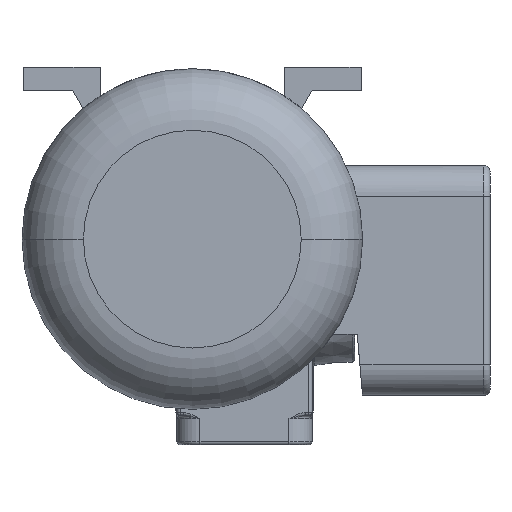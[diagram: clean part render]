
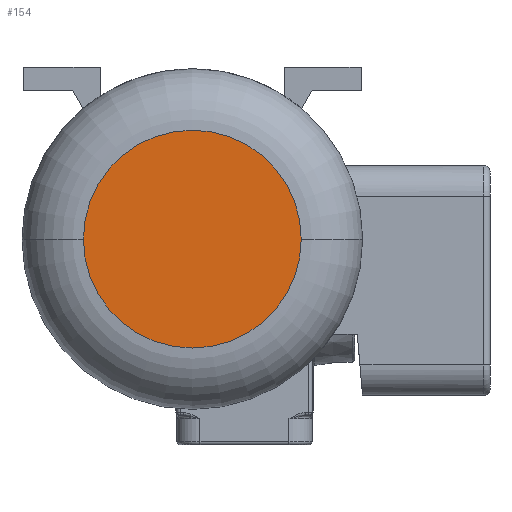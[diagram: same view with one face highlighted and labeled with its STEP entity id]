
A CAD part, left-side view. The second image highlights one B-rep face of the part: STEP entity #154.
In plain terms, the highlighted planar face has unit normal (-1, 0, 0).
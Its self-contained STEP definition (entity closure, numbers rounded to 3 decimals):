
#154 = ADVANCED_FACE ( 'NONE', ( #11403 ), #6577, .F. ) ;
#1228 = DIRECTION ( 'NONE',  ( 0., 0., -1. ) ) ;
#1391 = AXIS2_PLACEMENT_3D ( 'NONE', #3445, #8509, #1228 ) ;
#2450 = CIRCLE ( 'NONE', #9863, 35.5 ) ;
#2600 = CARTESIAN_POINT ( 'NONE',  ( 0., 0., 0. ) ) ;
#3445 = CARTESIAN_POINT ( 'NONE',  ( 0., 0., 0. ) ) ;
#3759 = CIRCLE ( 'NONE', #1391, 35.5 ) ;
#4293 = AXIS2_PLACEMENT_3D ( 'NONE', #2600, #15145, #5079 ) ;
#5079 = DIRECTION ( 'NONE',  ( 0., 0., -1. ) ) ;
#6577 = PLANE ( 'NONE',  #4293 ) ;
#6709 = VERTEX_POINT ( 'NONE', #7409 ) ;
#7409 = CARTESIAN_POINT ( 'NONE',  ( 0., 0., -35.5 ) ) ;
#7969 = ORIENTED_EDGE ( 'NONE', *, *, #12453, .T. ) ;
#7977 = CARTESIAN_POINT ( 'NONE',  ( 0., 0., 0. ) ) ;
#8509 = DIRECTION ( 'NONE',  ( -1., 0., 0. ) ) ;
#9863 = AXIS2_PLACEMENT_3D ( 'NONE', #7977, #10327, #14316 ) ;
#10039 = CARTESIAN_POINT ( 'NONE',  ( 0., 0., 35.5 ) ) ;
#10327 = DIRECTION ( 'NONE',  ( -1., 0., 0. ) ) ;
#11335 = EDGE_LOOP ( 'NONE', ( #7969, #15362 ) ) ;
#11403 = FACE_OUTER_BOUND ( 'NONE', #11335, .T. ) ;
#12453 = EDGE_CURVE ( 'NONE', #6709, #15680, #3759, .T. ) ;
#13008 = EDGE_CURVE ( 'NONE', #15680, #6709, #2450, .T. ) ;
#14316 = DIRECTION ( 'NONE',  ( 0., 0., -1. ) ) ;
#15145 = DIRECTION ( 'NONE',  ( 1., 0., 0. ) ) ;
#15362 = ORIENTED_EDGE ( 'NONE', *, *, #13008, .T. ) ;
#15680 = VERTEX_POINT ( 'NONE', #10039 ) ;
